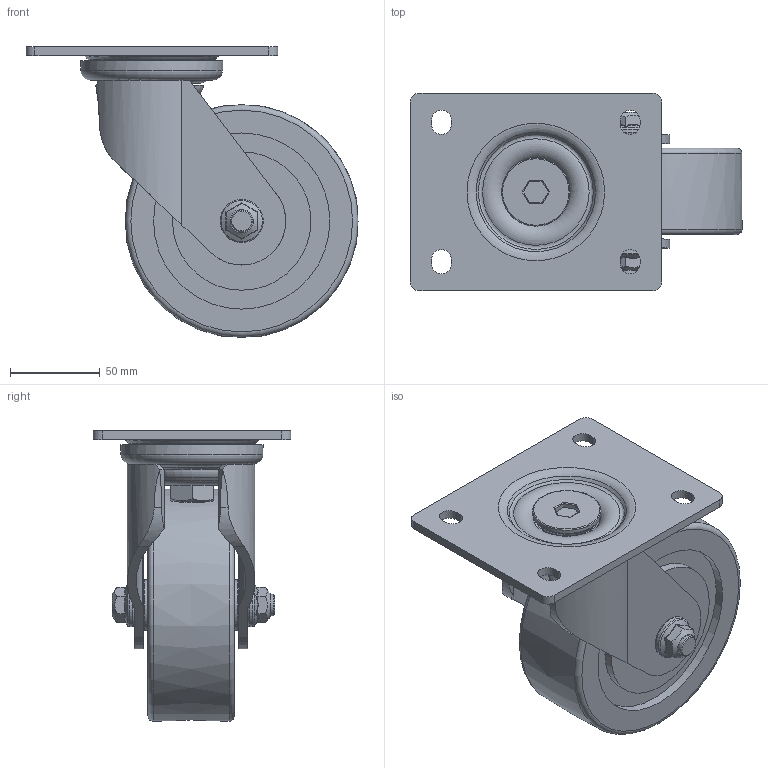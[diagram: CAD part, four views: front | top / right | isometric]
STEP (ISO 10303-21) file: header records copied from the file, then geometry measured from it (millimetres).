
FILE_DESCRIPTION((''),'2;1');
FILE_NAME('C:\Documents and Settings\Administrator\바탕 화면\3D STEP\PMW-SERIES\PMW-130\PMW-130A-SF.stp','2010-12-27T15:05:55',('Administrator'),(''),'Autodesk Inventor 2009','Autodesk Inventor 2009','');
FILE_SCHEMA(('AUTOMOTIVE_DESIGN { 1 0 10303 214 1 1 1 1 }'));
Length unit declared in the file: millimetre
Products named in the file (1): PMW-130A-SF
Bounding box: 184.68 x 110 x 161.68 mm (x, y, z)
Volume: 778705.5 mm3; surface area: 157101 mm2
Topology: 1 solids, 10 shells, 313 faces, 743 edges, 476 vertices
Faces by surface type: plane 122, cylinder 87, bspline 36, cone 33, torus 31, sphere 4
Full cylindrical faces by diameter (mm): 12 x1, 15 x1, 15.2 x1, 16 x2, 18 x3, 20 x4, 20.2 x2, 24 x2, 26 x1, 28 x2, 29 x8, 38 x9, 42 x1, 47 x4, 69 x1, 77 x2, 79 x1, 98 x2
Entity records: 10749 total; most frequent: CARTESIAN_POINT 4471, DIRECTION 1256, ORIENTED_EDGE 1122, EDGE_CURVE 561, AXIS2_PLACEMENT_3D 534, EDGE_LOOP 505, VERTEX_POINT 422, FACE_OUTER_BOUND 313
